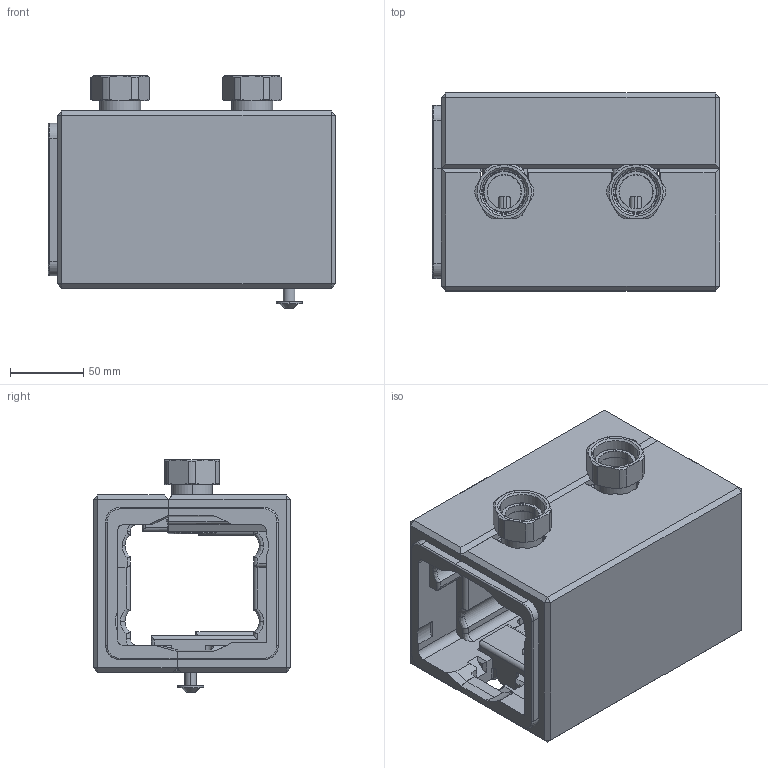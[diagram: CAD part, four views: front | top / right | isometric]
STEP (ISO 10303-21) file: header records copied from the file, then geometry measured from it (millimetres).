
FILE_DESCRIPTION (( 'STEP AP203' ), '1' );
FILE_NAME ('HSM_90E_rozszerzenie_ProFusion_HSM_90_o_1_obieg_pompowy_79600_0_3D_AFRISO.STEP', '2026-03-23T10:49:21', ( '' ), ( '' ), 'SwSTEP 2.0', 'SolidWorks 2023', '' );
FILE_SCHEMA (( 'CONFIG_CONTROL_DESIGN' ));
Length unit declared in the file: millimetre
Products named in the file (11): Blindeinsatz; D_X_E4mmung_R_X_FCckseite; D_X_E4mmung_Verteiler_Front; ISO 4032-M8-10_Sechskantmuttern_1; 05 00 350466__X_DCberwurfmutter G1_1; 05 00 350466__X_DCberwurfmutter G1_1_2; 801 000 0332_O-Ring _X_F826,5x3,0mm EPDM_1; HSM_90E_rozszerzenie_ProFusion_HSM_90_o_1_obieg_pompowy_79600_0_3D_AFRISO; 05 01 001286_Einsteckstutzen G1 HSM_1; 907380 8020_LKS ISO 7380-2 M8X20_1
Assembly tree (12 placements, depth 3):
  HSM_90E_rozszerzenie_ProFusion_HSM_90_o_1_obieg_pompowy_79600_0_3D_AFRISO
    801 000 0332_O-Ring _X_F826,5x3,0mm EPDM_1  x2
    05 00 350466__X_DCberwurfmutter G1_1
    05 01 001286_Einsteckstutzen G1 HSM_1  x2
    05 00 350466__X_DCberwurfmutter G1_1_2
    Blindeinsatz
      Blindeinsatz
    D_X_E4mmung_Verteiler_Front
    D_X_E4mmung_R_X_FCckseite
    907380 8020_LKS ISO 7380-2 M8X20_1
    ISO 4032-M8-10_Sechskantmuttern_1
Bounding box: 196 x 135 x 158.55 mm (x, y, z)
Volume: 1653957.3 mm3; surface area: 242537.1 mm2
Topology: 11 solids, 11 shells, 1180 faces, 3076 edges, 1978 vertices
Faces by surface type: plane 597, cylinder 285, bspline 180, cone 115, torus 3
Entity records: 45030 total; most frequent: CARTESIAN_POINT 18409, ORIENTED_EDGE 5764, DIRECTION 4492, EDGE_CURVE 2882, VERTEX_POINT 1858, LINE 1656, VECTOR 1656, AXIS2_PLACEMENT_3D 1418
